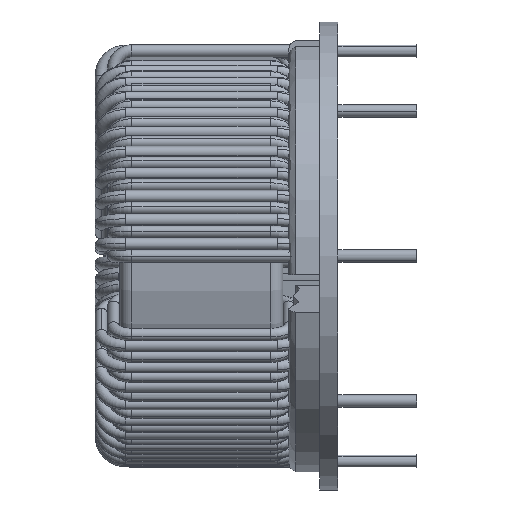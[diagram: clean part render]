
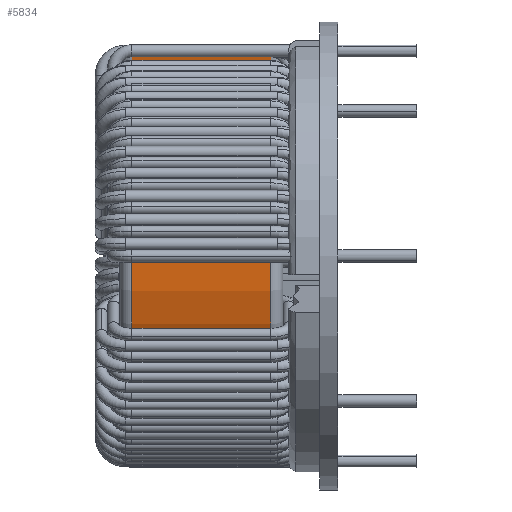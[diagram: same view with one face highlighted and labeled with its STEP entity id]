
A CAD part, left-side view. The second image highlights one B-rep face of the part: STEP entity #5834.
In plain terms, the highlighted cylindrical face has radius 32.975 mm (diameter 65.95 mm), a partial arc.
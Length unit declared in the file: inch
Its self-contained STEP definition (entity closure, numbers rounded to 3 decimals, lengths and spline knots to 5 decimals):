
#416 = LINE ( 'NONE', #35579, #37901 ) ;
#3034 = CARTESIAN_POINT ( 'NONE',  ( 0., 1.42358, 0. ) ) ;
#3463 = ORIENTED_EDGE ( 'NONE', *, *, #17305, .T. ) ;
#4027 = CYLINDRICAL_SURFACE ( 'NONE', #37995, 1.29823 ) ;
#5834 = ADVANCED_FACE ( 'NONE', ( #35154 ), #4027, .T. ) ;
#6439 = VERTEX_POINT ( 'NONE', #7284 ) ;
#7080 = DIRECTION ( 'NONE',  ( 0., 0., -1. ) ) ;
#7284 = CARTESIAN_POINT ( 'NONE',  ( 0., 1.34484, -1.29823 ) ) ;
#8532 = DIRECTION ( 'NONE',  ( 0., -1., 0. ) ) ;
#8960 = EDGE_CURVE ( 'NONE', #24652, #23024, #28094, .T. ) ;
#13185 = EDGE_CURVE ( 'NONE', #24652, #6439, #21109, .T. ) ;
#16135 = ORIENTED_EDGE ( 'NONE', *, *, #47642, .T. ) ;
#16747 = CARTESIAN_POINT ( 'NONE',  ( 0., 1.34484, 0. ) ) ;
#17149 = DIRECTION ( 'NONE',  ( 0., -1., 0. ) ) ;
#17305 = EDGE_CURVE ( 'NONE', #6439, #40112, #416, .T. ) ;
#18693 = CARTESIAN_POINT ( 'NONE',  ( 0., 1.34484, 1.29823 ) ) ;
#19143 = DIRECTION ( 'NONE',  ( 0., 0., 1. ) ) ;
#20130 = AXIS2_PLACEMENT_3D ( 'NONE', #40163, #35167, #19143 ) ;
#21109 = CIRCLE ( 'NONE', #42173, 1.29823 ) ;
#23024 = VERTEX_POINT ( 'NONE', #61559 ) ;
#23735 = DIRECTION ( 'NONE',  ( 0., -1., 0. ) ) ;
#24652 = VERTEX_POINT ( 'NONE', #18693 ) ;
#28094 = LINE ( 'NONE', #36113, #49904 ) ;
#31217 = CIRCLE ( 'NONE', #20130, 1.29823 ) ;
#35154 = FACE_OUTER_BOUND ( 'NONE', #52495, .T. ) ;
#35167 = DIRECTION ( 'NONE',  ( 0., 1., 0. ) ) ;
#35579 = CARTESIAN_POINT ( 'NONE',  ( 0., 1.42358, -1.29823 ) ) ;
#36113 = CARTESIAN_POINT ( 'NONE',  ( 0., 1.42358, 1.29823 ) ) ;
#37901 = VECTOR ( 'NONE', #8532, 39.37008 ) ;
#37995 = AXIS2_PLACEMENT_3D ( 'NONE', #3034, #17149, #7080 ) ;
#40112 = VERTEX_POINT ( 'NONE', #46382 ) ;
#40163 = CARTESIAN_POINT ( 'NONE',  ( 0., 0.43898, 0. ) ) ;
#40562 = ORIENTED_EDGE ( 'NONE', *, *, #8960, .F. ) ;
#42173 = AXIS2_PLACEMENT_3D ( 'NONE', #16747, #23735, #53838 ) ;
#46382 = CARTESIAN_POINT ( 'NONE',  ( 0., 0.43898, -1.29823 ) ) ;
#47642 = EDGE_CURVE ( 'NONE', #40112, #23024, #31217, .T. ) ;
#49904 = VECTOR ( 'NONE', #57270, 39.37008 ) ;
#52495 = EDGE_LOOP ( 'NONE', ( #40562, #61620, #3463, #16135 ) ) ;
#53838 = DIRECTION ( 'NONE',  ( 0., 0., 1. ) ) ;
#57270 = DIRECTION ( 'NONE',  ( 0., -1., 0. ) ) ;
#61559 = CARTESIAN_POINT ( 'NONE',  ( 0., 0.43898, 1.29823 ) ) ;
#61620 = ORIENTED_EDGE ( 'NONE', *, *, #13185, .T. ) ;
